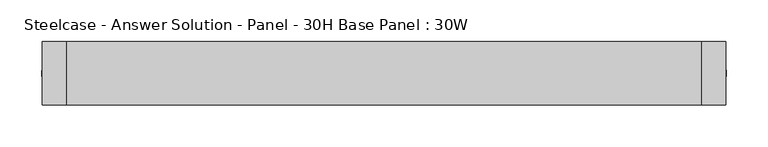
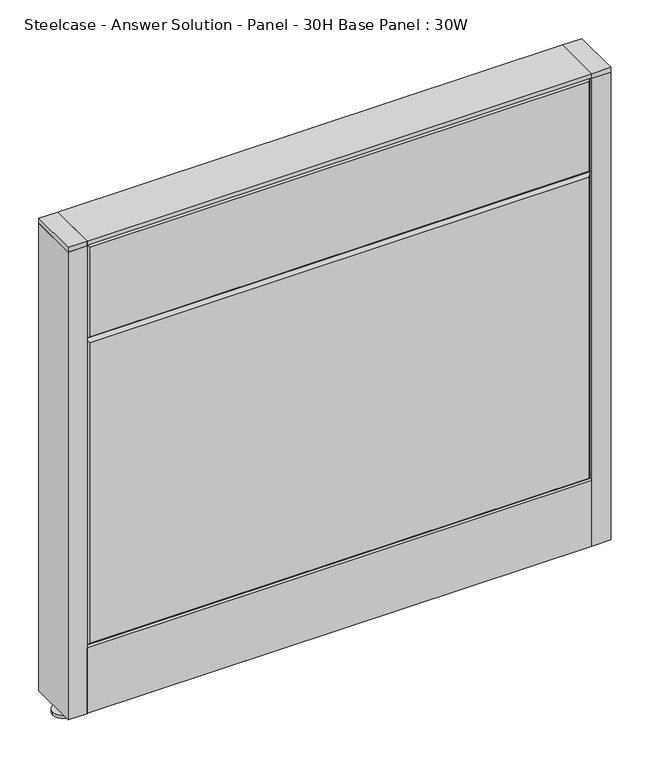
"""IFC4 building model written with IfcOpenShell, lengths in millimetres: furniture geometry, Steelcase - Answer Solution - Panel - 30H Base Panel : 30W."""

from ifc_helpers import new_model, si_unit, point, frame, frame_2d, origin, place, context, project, spatial, polyline, circle_curve, trimmed, segment, composite_curve, outline, extrude, faceted_brep, source, transform, mapped, element, save


def steelcase_answer_solution_panel_30h_base_panel_30w_f2bb0568(model_context):
    return source(origin(), model_context, "Body", "SolidModel", [
        extrude(outline(composite_curve([segment(trimmed(circle_curve(frame_2d((395.224, 0.0320214)), 5.08), [point((400.304, 0.0320214))], [point((390.144, 0.0320214))], False, "CARTESIAN"), True, "CONTINUOUS"), segment(trimmed(circle_curve(frame_2d((395.224, 0.0320214)), 5.08), [point((390.144, 0.0320214))], [point((400.304, 0.0320214))], False, "CARTESIAN"), True, "CONTINUOUS")], self_intersect=False)), frame((0.0, 0.0, 5.0799671), z_axis=(0.0, 0.0, 1.0), x_axis=(1.0, 0.0, 0.0)), (0.0, 0.0, 1.0), 10.414),
        extrude(outline(composite_curve([segment(trimmed(circle_curve(frame_2d((395.224, 0.0320214)), 15.24), [point((410.464, 0.0320214))], [point((379.984, 0.0320214))], False, "CARTESIAN"), True, "CONTINUOUS"), segment(trimmed(circle_curve(frame_2d((395.224, 0.0320214)), 15.24), [point((379.984, 0.0320214))], [point((410.464, 0.0320214))], False, "CARTESIAN"), True, "CONTINUOUS")], self_intersect=False)), frame((0.0, 0.0, -3.29e-05), z_axis=(0.0, 0.0, 1.0), x_axis=(1.0, 0.0, 0.0)), (0.0, 0.0, 1.0), 5.08),
        extrude(outline(polyline([(409.575, 38.1320408), (409.575, -38.0679592), (381.0, -38.0679592), (381.0, 38.1320408), (409.575, 38.1320408)])), frame((0.0, 0.0, 761.0348), z_axis=(0.0, 0.0, 1.0), x_axis=(1.0, 0.0, 0.0)), (0.0, 0.0, 1.0), 7.3151671),
        extrude(outline(polyline([(409.575, 38.1320408), (409.575, -38.0679592), (381.0, -38.0679592), (381.0, 38.1320408), (409.575, 38.1320408)])), frame((0.0, 0.0, 15.4939671), z_axis=(0.0, 0.0, 1.0), x_axis=(1.0, 0.0, 0.0)), (0.0, 0.0, 1.0), 745.5408329),
        extrude(outline(composite_curve([segment(trimmed(circle_curve(frame_2d((-395.224, -0.0320214)), 5.08), [point((-400.304, -0.0320214))], [point((-390.144, -0.0320214))], False, "CARTESIAN"), True, "CONTINUOUS"), segment(trimmed(circle_curve(frame_2d((-395.224, -0.0320214)), 5.08), [point((-390.144, -0.0320214))], [point((-400.304, -0.0320214))], False, "CARTESIAN"), True, "CONTINUOUS")], self_intersect=False)), frame((0.0, 0.0, 5.0799671), z_axis=(0.0, 0.0, 1.0), x_axis=(1.0, 0.0, 0.0)), (0.0, 0.0, 1.0), 10.414),
        extrude(outline(composite_curve([segment(trimmed(circle_curve(frame_2d((-395.224, -0.0320214)), 15.24), [point((-410.464, -0.0320214))], [point((-379.984, -0.0320214))], False, "CARTESIAN"), True, "CONTINUOUS"), segment(trimmed(circle_curve(frame_2d((-395.224, -0.0320214)), 15.24), [point((-379.984, -0.0320214))], [point((-410.464, -0.0320214))], False, "CARTESIAN"), True, "CONTINUOUS")], self_intersect=False)), frame((0.0, 0.0, -3.29e-05), z_axis=(0.0, 0.0, 1.0), x_axis=(1.0, 0.0, 0.0)), (0.0, 0.0, 1.0), 5.08),
        extrude(outline(polyline([(-409.575, -38.1320408), (-409.575, 38.0679592), (-381.0, 38.0679592), (-381.0, -38.1320408), (-409.575, -38.1320408)])), frame((0.0, 0.0, 761.0348), z_axis=(0.0, 0.0, 1.0), x_axis=(1.0, 0.0, 0.0)), (0.0, 0.0, 1.0), 7.3151671),
        extrude(outline(polyline([(-409.575, -38.1320408), (-409.575, 38.0679592), (-381.0, 38.0679592), (-381.0, -38.1320408), (-409.575, -38.1320408)])), frame((0.0, 0.0, 15.4939671), z_axis=(0.0, 0.0, 1.0), x_axis=(1.0, 0.0, 0.0)), (0.0, 0.0, 1.0), 745.5408329),
        faceted_brep([(376.174, 38.1635011, 757.174), (376.174, 38.1635011, 614.426), (-376.174, 38.1635011, 614.426), (-376.174, 38.1635011, 757.174), (381.0, 33.3375011, 762.0), (-381.0, 33.3375011, 762.0), (-381.0, 33.3375011, 609.6), (381.0, 33.3375011, 609.6)], [[[0, 1, 2, 3]], [[4, 5, 6, 7]], [[4, 0, 3, 5]], [[5, 3, 2, 6]], [[6, 2, 1, 7]], [[7, 1, 0, 4]]]),
        faceted_brep([(376.174, 38.1635011, 604.774), (376.174, 38.1635011, 125.476), (-376.174, 38.1635011, 125.476), (-376.174, 38.1635011, 604.774), (381.0, 33.3375011, 609.6), (-381.0, 33.3375011, 609.6), (-381.0, 33.3375011, 120.65), (381.0, 33.3375011, 120.65)], [[[0, 1, 2, 3]], [[4, 5, 6, 7]], [[4, 0, 3, 5]], [[5, 3, 2, 6]], [[6, 2, 1, 7]], [[7, 1, 0, 4]]]),
        faceted_brep([(376.174, -38.1635011, 757.174), (-376.174, -38.1635011, 757.174), (-376.174, -38.1635011, 614.426), (376.174, -38.1635011, 614.426), (381.0, -33.3375011, 762.0), (381.0, -33.3375011, 609.6), (-381.0, -33.3375011, 609.6), (-381.0, -33.3375011, 762.0)], [[[0, 1, 2, 3]], [[4, 5, 6, 7]], [[4, 7, 1, 0]], [[7, 6, 2, 1]], [[6, 5, 3, 2]], [[5, 4, 0, 3]]]),
        faceted_brep([(376.174, -38.1635011, 604.774), (-376.174, -38.1635011, 604.774), (-376.174, -38.1635011, 125.476), (376.174, -38.1635011, 125.476), (381.0, -33.3375011, 609.6), (381.0, -33.3375011, 120.65), (-381.0, -33.3375011, 120.65), (-381.0, -33.3375011, 609.6)], [[[0, 1, 2, 3]], [[4, 5, 6, 7]], [[4, 7, 1, 0]], [[7, 6, 2, 1]], [[6, 5, 3, 2]], [[5, 4, 0, 3]]]),
        extrude(outline(polyline([(381.0, 38.1000194), (381.0, -38.1000194), (-381.0, -38.1000194), (-381.0, 38.1000194), (381.0, 38.1000194)])), frame((0.0, 0.0, 762.0), z_axis=(0.0, 0.0, 1.0), x_axis=(1.0, 0.0, 0.0)), (0.0, 0.0, 1.0), 6.35),
        extrude(outline(polyline([(37.3075215, 119.8575157), (25.4000011, 119.8575157), (25.4000011, 120.65), (38.1000194, 120.65), (38.1000194, 15.494), (37.3075215, 15.494), (37.3075215, 119.8575157)])), frame((-381.0, 0.0, 0.0), z_axis=(1.0, 0.0, 0.0), x_axis=(0.0, 1.0, 0.0)), (0.0, 0.0, 1.0), 762.0),
        extrude(outline(polyline([(-37.3075215, 119.8575157), (-37.3075215, 15.494), (-38.1000194, 15.494), (-38.1000194, 120.65), (-25.4000011, 120.65), (-25.4000011, 119.8575157), (-37.3075215, 119.8575157)])), frame((-381.0, 0.0, 0.0), z_axis=(1.0, 0.0, 0.0), x_axis=(0.0, 1.0, 0.0)), (0.0, 0.0, 1.0), 762.0),
    ])


if __name__ == "__main__":
    model = new_model("IFC4")
    model_context = context("Model", 3, world=origin())
    ifc_project = project(units=[si_unit("LENGTHUNIT", "METRE", prefix="MILLI")], contexts=[model_context])
    site = spatial("IfcSite", under=ifc_project)
    building = spatial("IfcBuilding", under=site)
    placement = place(None, origin())
    steelcase_answer_solution_panel_30h_base_panel_30w_shape = steelcase_answer_solution_panel_30h_base_panel_30w_f2bb0568(model_context)
    element("IfcFurniture", 1, ObjectType="Steelcase - Answer Solution - Panel - 30H Base Panel : 30W", at=placement, inside=building, context=model_context, shape_type="MappedRepresentation", body=[
        mapped(steelcase_answer_solution_panel_30h_base_panel_30w_shape, transform((0.0, 0.0, 0.0), x_axis=(1.0, 0.0, 0.0), y_axis=(0.0, 1.0, 0.0), z_axis=(0.0, 0.0, 1.0))),
    ])
    save(model, "model.ifc")
